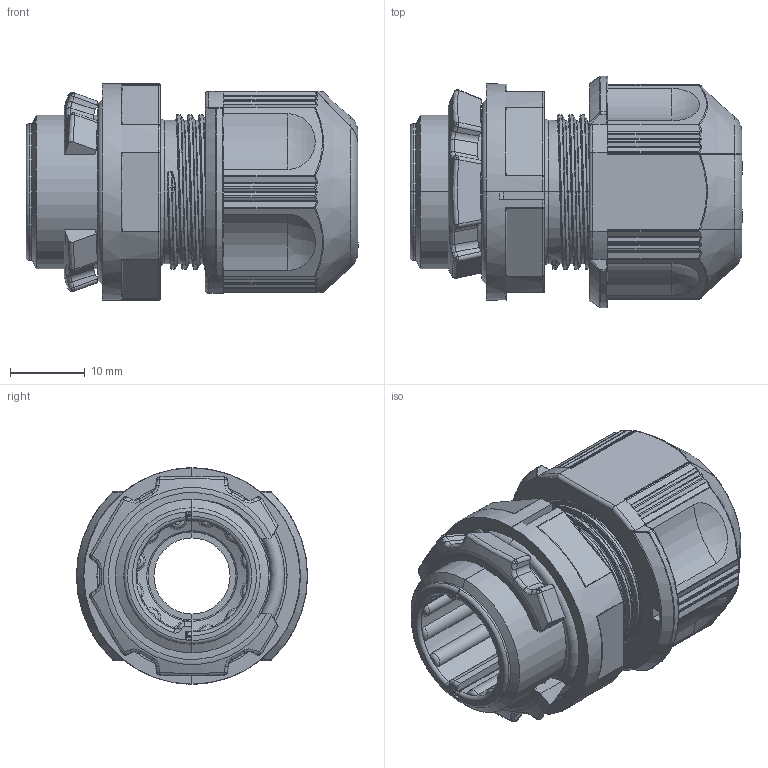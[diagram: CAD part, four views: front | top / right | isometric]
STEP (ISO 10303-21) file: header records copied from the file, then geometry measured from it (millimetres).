
FILE_DESCRIPTION(('Creo Elements/Direct Modeling STEP Export'),'2;1');
FILE_NAME('H12-0004-CL901-02_OA-WH16-06_10.stp','2021-12-23T10:54:33',(''),(''),'Creo Elements/Direct Modeling STEP processor for AP214 (Solid Model)','Creo Elements/Direct Modeling 20.3B 05-Dec-2020 (C) Parametric Technology GmbH','');
FILE_SCHEMA(('AUTOMOTIVE_DESIGN { 1 0 10303 214 1 1 1 1 }'));
Length unit declared in the file: millimetre
Products named in the file (3): Nipple; Locknut; OA-WH16-06_10
Assembly tree (2 placements, depth 2):
  OA-WH16-06_10
    Locknut
    Nipple
Bounding box: 44.5 x 31 x 29 mm (x, y, z)
Volume: 17097.2 mm3; surface area: 11830.3 mm2
Topology: 2 solids, 2 shells, 1270 faces, 3373 edges, 2062 vertices
Faces by surface type: bspline 437, cylinder 366, plane 285, torus 99, sphere 46, cone 36, extrusion 1
Entity records: 83850 total; most frequent: CARTESIAN_POINT 56445, ORIENTED_EDGE 6654, DIRECTION 4133, EDGE_CURVE 3327, VERTEX_POINT 2062, AXIS2_PLACEMENT_3D 1550, B_SPLINE_CURVE_WITH_KNOTS 1477, EDGE_LOOP 1285
